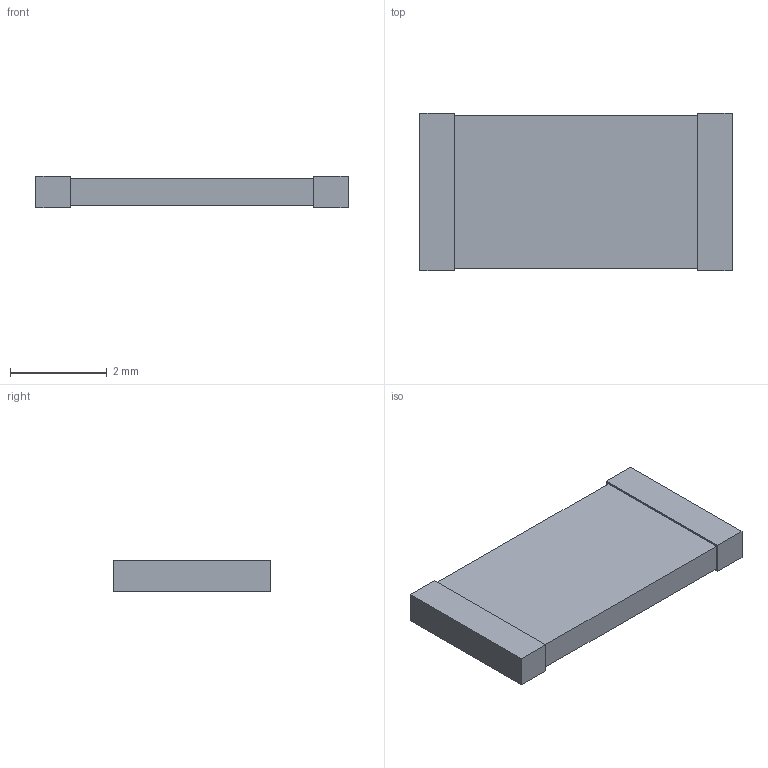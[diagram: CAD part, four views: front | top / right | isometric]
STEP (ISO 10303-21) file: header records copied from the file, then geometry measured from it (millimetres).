
FILE_DESCRIPTION(('STEP AP214'),'1');
FILE_NAME('RES_RC2512_6P35X3P1_YAG','2021-08-30T00:34:37',(''),(''),'','','');
FILE_SCHEMA(('AUTOMOTIVE_DESIGN'));
Length unit declared in the file: millimetre
Products named in the file (1): product
Bounding box: 6.45 x 3.25 x 0.66 mm (x, y, z)
Volume: 12.1 mm3; surface area: 60.8 mm2
Topology: 3 solids, 3 shells, 18 faces, 36 edges, 24 vertices
Faces by surface type: plane 18
Entity records: 489 total; most frequent: DIRECTION 74, ORIENTED_EDGE 72, CARTESIAN_POINT 43, EDGE_CURVE 36, LINE 36, VECTOR 36, VERTEX_POINT 24, AXIS2_PLACEMENT_3D 19
